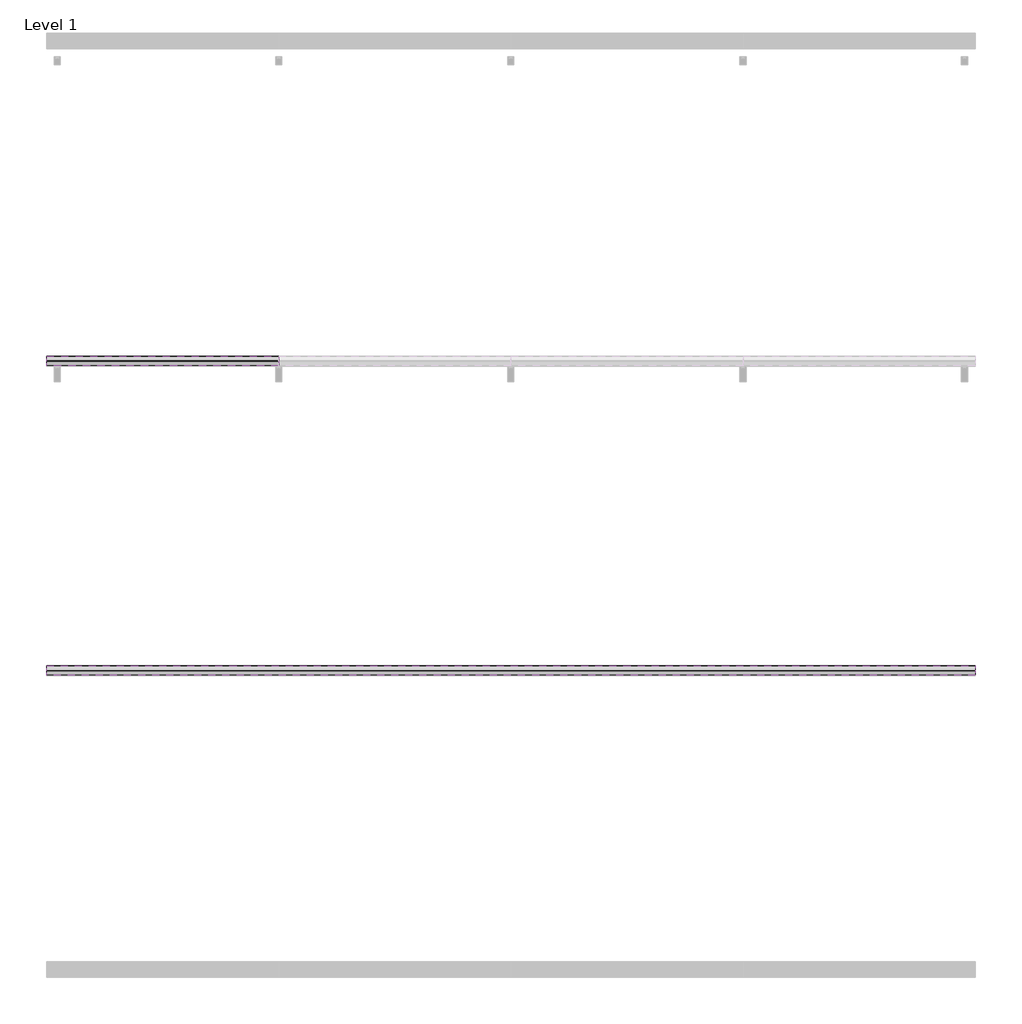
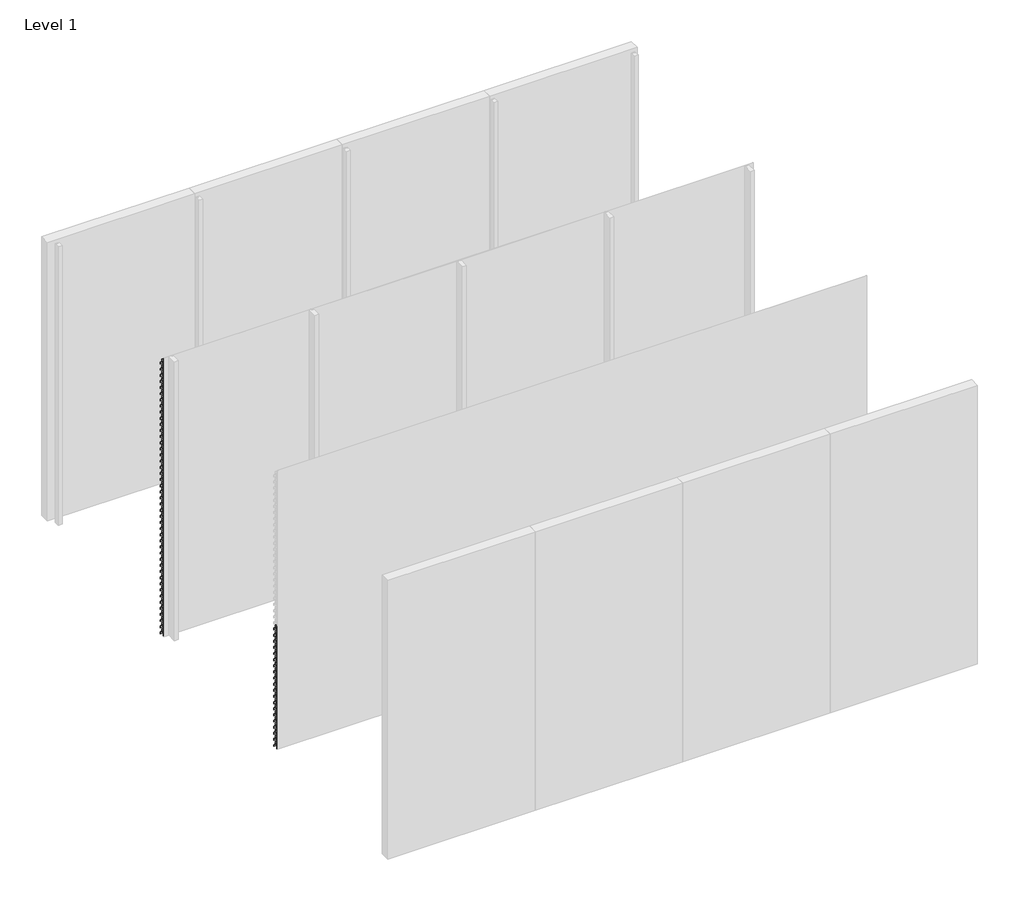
# One storey, part 13 of 35: 70 proxies.
"""IFC4 building model written with IfcOpenShell, lengths in millimetres."""

from ifc_helpers import new_model, si_unit, frame, origin, place, context, project, spatial, polyline, outline, extrude, element, save

model = new_model("IFC4")

# Units and contexts
model_context = context("Model", 3, world=origin())
ifc_project = project(units=[si_unit("LENGTHUNIT", "METRE", prefix="MILLI")], contexts=[model_context])

# Site, building, storey
site = spatial("IfcSite", under=ifc_project)
building = spatial("IfcBuilding", under=site)
storey = spatial("IfcBuildingStorey", under=building, Name="Level 1", Elevation=0.0)

# Proxies
placement = place(None, origin())
element("IfcBuildingElementProxy", 1, Name="Wall Sweeps", at=placement, inside=storey, context=model_context, shape_type="SweptSolid", body=[
    extrude(outline(polyline([(-35936.0, 2916.0), (-35936.0, 2896.0), (-35937.25, 2896.0), (-35937.25, 2915.4342979), (-35968.1138939, 2948.531772), (-35996.7, 2928.4392868), (-35996.7, 2909.6629874), (-35998.0, 2908.8506572), (-35998.0, 2929.1145472), (-35968.537525, 2949.823011), (-35968.537525, 2970.0), (-35967.1772624, 2970.0), (-35967.1772624, 2949.4335207), (-35936.0, 2916.0)])), frame((0.0, 0.0, 0.0), z_axis=(1.0, 0.0, 0.0), x_axis=(0.0, 1.0, 0.0)), (0.0, 0.0, 1.0), 1500.0),
])
element("IfcBuildingElementProxy", 2, Name="Wall Sweeps", at=placement, inside=storey, context=model_context, shape_type="SweptSolid", body=[
    extrude(outline(polyline([(-35936.0, 2850.0), (-35936.0, 2830.0), (-35937.25, 2830.0), (-35937.25, 2849.4342979), (-35968.1138939, 2882.531772), (-35996.7, 2862.4392868), (-35996.7, 2843.6629874), (-35998.0, 2842.8506572), (-35998.0, 2863.1145472), (-35968.537525, 2883.823011), (-35968.537525, 2904.0), (-35967.1772624, 2904.0), (-35967.1772624, 2883.4335207), (-35936.0, 2850.0)])), frame((0.0, 0.0, 0.0), z_axis=(1.0, 0.0, 0.0), x_axis=(0.0, 1.0, 0.0)), (0.0, 0.0, 1.0), 1500.0),
])
element("IfcBuildingElementProxy", 3, Name="Wall Sweeps", at=placement, inside=storey, context=model_context, shape_type="SweptSolid", body=[
    extrude(outline(polyline([(-35936.0, 2784.0), (-35936.0, 2764.0), (-35937.25, 2764.0), (-35937.25, 2783.4342979), (-35968.1138939, 2816.531772), (-35996.7, 2796.4392868), (-35996.7, 2777.6629874), (-35998.0, 2776.8506572), (-35998.0, 2797.1145472), (-35968.537525, 2817.823011), (-35968.537525, 2838.0), (-35967.1772624, 2838.0), (-35967.1772624, 2817.4335207), (-35936.0, 2784.0)])), frame((0.0, 0.0, 0.0), z_axis=(1.0, 0.0, 0.0), x_axis=(0.0, 1.0, 0.0)), (0.0, 0.0, 1.0), 1500.0),
])
element("IfcBuildingElementProxy", 4, Name="Wall Sweeps", at=placement, inside=storey, context=model_context, shape_type="SweptSolid", body=[
    extrude(outline(polyline([(-35936.0, 2718.0), (-35936.0, 2698.0), (-35937.25, 2698.0), (-35937.25, 2717.4342979), (-35968.1138939, 2750.531772), (-35996.7, 2730.4392868), (-35996.7, 2711.6629874), (-35998.0, 2710.8506572), (-35998.0, 2731.1145472), (-35968.537525, 2751.823011), (-35968.537525, 2772.0), (-35967.1772624, 2772.0), (-35967.1772624, 2751.4335207), (-35936.0, 2718.0)])), frame((0.0, 0.0, 0.0), z_axis=(1.0, 0.0, 0.0), x_axis=(0.0, 1.0, 0.0)), (0.0, 0.0, 1.0), 1500.0),
])
element("IfcBuildingElementProxy", 5, Name="Wall Sweeps", at=placement, inside=storey, context=model_context, shape_type="SweptSolid", body=[
    extrude(outline(polyline([(-35936.0, 2652.0), (-35936.0, 2632.0), (-35937.25, 2632.0), (-35937.25, 2651.4342979), (-35968.1138939, 2684.531772), (-35996.7, 2664.4392868), (-35996.7, 2645.6629874), (-35998.0, 2644.8506572), (-35998.0, 2665.1145472), (-35968.537525, 2685.823011), (-35968.537525, 2706.0), (-35967.1772624, 2706.0), (-35967.1772624, 2685.4335207), (-35936.0, 2652.0)])), frame((0.0, 0.0, 0.0), z_axis=(1.0, 0.0, 0.0), x_axis=(0.0, 1.0, 0.0)), (0.0, 0.0, 1.0), 1500.0),
])
element("IfcBuildingElementProxy", 6, Name="Wall Sweeps", at=placement, inside=storey, context=model_context, shape_type="SweptSolid", body=[
    extrude(outline(polyline([(-35936.0, 2586.0), (-35936.0, 2566.0), (-35937.25, 2566.0), (-35937.25, 2585.4342979), (-35968.1138939, 2618.531772), (-35996.7, 2598.4392868), (-35996.7, 2579.6629874), (-35998.0, 2578.8506572), (-35998.0, 2599.1145472), (-35968.537525, 2619.823011), (-35968.537525, 2640.0), (-35967.1772624, 2640.0), (-35967.1772624, 2619.4335207), (-35936.0, 2586.0)])), frame((0.0, 0.0, 0.0), z_axis=(1.0, 0.0, 0.0), x_axis=(0.0, 1.0, 0.0)), (0.0, 0.0, 1.0), 1500.0),
])
element("IfcBuildingElementProxy", 7, Name="Wall Sweeps", at=placement, inside=storey, context=model_context, shape_type="SweptSolid", body=[
    extrude(outline(polyline([(-35936.0, 2520.0), (-35936.0, 2500.0), (-35937.25, 2500.0), (-35937.25, 2519.4342979), (-35968.1138939, 2552.531772), (-35996.7, 2532.4392868), (-35996.7, 2513.6629874), (-35998.0, 2512.8506572), (-35998.0, 2533.1145472), (-35968.537525, 2553.823011), (-35968.537525, 2574.0), (-35967.1772624, 2574.0), (-35967.1772624, 2553.4335207), (-35936.0, 2520.0)])), frame((0.0, 0.0, 0.0), z_axis=(1.0, 0.0, 0.0), x_axis=(0.0, 1.0, 0.0)), (0.0, 0.0, 1.0), 1500.0),
])
element("IfcBuildingElementProxy", 8, Name="Wall Sweeps", at=placement, inside=storey, context=model_context, shape_type="SweptSolid", body=[
    extrude(outline(polyline([(-35936.0, 2454.0), (-35936.0, 2434.0), (-35937.25, 2434.0), (-35937.25, 2453.4342979), (-35968.1138939, 2486.531772), (-35996.7, 2466.4392868), (-35996.7, 2447.6629874), (-35998.0, 2446.8506572), (-35998.0, 2467.1145472), (-35968.537525, 2487.823011), (-35968.537525, 2508.0), (-35967.1772624, 2508.0), (-35967.1772624, 2487.4335207), (-35936.0, 2454.0)])), frame((0.0, 0.0, 0.0), z_axis=(1.0, 0.0, 0.0), x_axis=(0.0, 1.0, 0.0)), (0.0, 0.0, 1.0), 1500.0),
])
element("IfcBuildingElementProxy", 9, Name="Wall Sweeps", at=placement, inside=storey, context=model_context, shape_type="SweptSolid", body=[
    extrude(outline(polyline([(-35936.0, 2388.0), (-35936.0, 2368.0), (-35937.25, 2368.0), (-35937.25, 2387.4342979), (-35968.1138939, 2420.531772), (-35996.7, 2400.4392868), (-35996.7, 2381.6629874), (-35998.0, 2380.8506572), (-35998.0, 2401.1145472), (-35968.537525, 2421.823011), (-35968.537525, 2442.0), (-35967.1772624, 2442.0), (-35967.1772624, 2421.4335207), (-35936.0, 2388.0)])), frame((0.0, 0.0, 0.0), z_axis=(1.0, 0.0, 0.0), x_axis=(0.0, 1.0, 0.0)), (0.0, 0.0, 1.0), 1500.0),
])
element("IfcBuildingElementProxy", 10, Name="Wall Sweeps", at=placement, inside=storey, context=model_context, shape_type="SweptSolid", body=[
    extrude(outline(polyline([(-35936.0, 2322.0), (-35936.0, 2302.0), (-35937.25, 2302.0), (-35937.25, 2321.4342979), (-35968.1138939, 2354.531772), (-35996.7, 2334.4392868), (-35996.7, 2315.6629874), (-35998.0, 2314.8506572), (-35998.0, 2335.1145472), (-35968.537525, 2355.823011), (-35968.537525, 2376.0), (-35967.1772624, 2376.0), (-35967.1772624, 2355.4335207), (-35936.0, 2322.0)])), frame((0.0, 0.0, 0.0), z_axis=(1.0, 0.0, 0.0), x_axis=(0.0, 1.0, 0.0)), (0.0, 0.0, 1.0), 1500.0),
])
element("IfcBuildingElementProxy", 11, Name="Wall Sweeps", at=placement, inside=storey, context=model_context, shape_type="SweptSolid", body=[
    extrude(outline(polyline([(-35936.0, 2256.0), (-35936.0, 2236.0), (-35937.25, 2236.0), (-35937.25, 2255.4342979), (-35968.1138939, 2288.531772), (-35996.7, 2268.4392868), (-35996.7, 2249.6629874), (-35998.0, 2248.8506572), (-35998.0, 2269.1145472), (-35968.537525, 2289.823011), (-35968.537525, 2310.0), (-35967.1772624, 2310.0), (-35967.1772624, 2289.4335207), (-35936.0, 2256.0)])), frame((0.0, 0.0, 0.0), z_axis=(1.0, 0.0, 0.0), x_axis=(0.0, 1.0, 0.0)), (0.0, 0.0, 1.0), 1500.0),
])
element("IfcBuildingElementProxy", 12, Name="Wall Sweeps", at=placement, inside=storey, context=model_context, shape_type="SweptSolid", body=[
    extrude(outline(polyline([(-35936.0, 2190.0), (-35936.0, 2170.0), (-35937.25, 2170.0), (-35937.25, 2189.4342979), (-35968.1138939, 2222.531772), (-35996.7, 2202.4392868), (-35996.7, 2183.6629874), (-35998.0, 2182.8506572), (-35998.0, 2203.1145472), (-35968.537525, 2223.823011), (-35968.537525, 2244.0), (-35967.1772624, 2244.0), (-35967.1772624, 2223.4335207), (-35936.0, 2190.0)])), frame((0.0, 0.0, 0.0), z_axis=(1.0, 0.0, 0.0), x_axis=(0.0, 1.0, 0.0)), (0.0, 0.0, 1.0), 1500.0),
])
element("IfcBuildingElementProxy", 13, Name="Wall Sweeps", at=placement, inside=storey, context=model_context, shape_type="SweptSolid", body=[
    extrude(outline(polyline([(-35936.0, 2124.0), (-35936.0, 2104.0), (-35937.25, 2104.0), (-35937.25, 2123.4342979), (-35968.1138939, 2156.531772), (-35996.7, 2136.4392868), (-35996.7, 2117.6629874), (-35998.0, 2116.8506572), (-35998.0, 2137.1145472), (-35968.537525, 2157.823011), (-35968.537525, 2178.0), (-35967.1772624, 2178.0), (-35967.1772624, 2157.4335207), (-35936.0, 2124.0)])), frame((0.0, 0.0, 0.0), z_axis=(1.0, 0.0, 0.0), x_axis=(0.0, 1.0, 0.0)), (0.0, 0.0, 1.0), 1500.0),
])
element("IfcBuildingElementProxy", 14, Name="Wall Sweeps", at=placement, inside=storey, context=model_context, shape_type="SweptSolid", body=[
    extrude(outline(polyline([(-35936.0, 2058.0), (-35936.0, 2038.0), (-35937.25, 2038.0), (-35937.25, 2057.4342979), (-35968.1138939, 2090.531772), (-35996.7, 2070.4392868), (-35996.7, 2051.6629874), (-35998.0, 2050.8506572), (-35998.0, 2071.1145472), (-35968.537525, 2091.823011), (-35968.537525, 2112.0), (-35967.1772624, 2112.0), (-35967.1772624, 2091.4335207), (-35936.0, 2058.0)])), frame((0.0, 0.0, 0.0), z_axis=(1.0, 0.0, 0.0), x_axis=(0.0, 1.0, 0.0)), (0.0, 0.0, 1.0), 1500.0),
])
element("IfcBuildingElementProxy", 15, Name="Wall Sweeps", at=placement, inside=storey, context=model_context, shape_type="SweptSolid", body=[
    extrude(outline(polyline([(-35936.0, 1992.0), (-35936.0, 1972.0), (-35937.25, 1972.0), (-35937.25, 1991.4342979), (-35968.1138939, 2024.531772), (-35996.7, 2004.4392868), (-35996.7, 1985.6629874), (-35998.0, 1984.8506572), (-35998.0, 2005.1145472), (-35968.537525, 2025.823011), (-35968.537525, 2046.0), (-35967.1772624, 2046.0), (-35967.1772624, 2025.4335207), (-35936.0, 1992.0)])), frame((0.0, 0.0, 0.0), z_axis=(1.0, 0.0, 0.0), x_axis=(0.0, 1.0, 0.0)), (0.0, 0.0, 1.0), 1500.0),
])
element("IfcBuildingElementProxy", 16, Name="Wall Sweeps", at=placement, inside=storey, context=model_context, shape_type="SweptSolid", body=[
    extrude(outline(polyline([(-35936.0, 1926.0), (-35936.0, 1906.0), (-35937.25, 1906.0), (-35937.25, 1925.4342979), (-35968.1138939, 1958.531772), (-35996.7, 1938.4392868), (-35996.7, 1919.6629874), (-35998.0, 1918.8506572), (-35998.0, 1939.1145472), (-35968.537525, 1959.823011), (-35968.537525, 1980.0), (-35967.1772624, 1980.0), (-35967.1772624, 1959.4335207), (-35936.0, 1926.0)])), frame((0.0, 0.0, 0.0), z_axis=(1.0, 0.0, 0.0), x_axis=(0.0, 1.0, 0.0)), (0.0, 0.0, 1.0), 1500.0),
])
element("IfcBuildingElementProxy", 17, Name="Wall Sweeps", at=placement, inside=storey, context=model_context, shape_type="SweptSolid", body=[
    extrude(outline(polyline([(-35936.0, 1860.0), (-35936.0, 1840.0), (-35937.25, 1840.0), (-35937.25, 1859.4342979), (-35968.1138939, 1892.531772), (-35996.7, 1872.4392868), (-35996.7, 1853.6629874), (-35998.0, 1852.8506572), (-35998.0, 1873.1145472), (-35968.537525, 1893.823011), (-35968.537525, 1914.0), (-35967.1772624, 1914.0), (-35967.1772624, 1893.4335207), (-35936.0, 1860.0)])), frame((0.0, 0.0, 0.0), z_axis=(1.0, 0.0, 0.0), x_axis=(0.0, 1.0, 0.0)), (0.0, 0.0, 1.0), 1500.0),
])
element("IfcBuildingElementProxy", 18, Name="Wall Sweeps", at=placement, inside=storey, context=model_context, shape_type="SweptSolid", body=[
    extrude(outline(polyline([(-35936.0, 1794.0), (-35936.0, 1774.0), (-35937.25, 1774.0), (-35937.25, 1793.4342979), (-35968.1138939, 1826.531772), (-35996.7, 1806.4392868), (-35996.7, 1787.6629874), (-35998.0, 1786.8506572), (-35998.0, 1807.1145472), (-35968.537525, 1827.823011), (-35968.537525, 1848.0), (-35967.1772624, 1848.0), (-35967.1772624, 1827.4335207), (-35936.0, 1794.0)])), frame((0.0, 0.0, 0.0), z_axis=(1.0, 0.0, 0.0), x_axis=(0.0, 1.0, 0.0)), (0.0, 0.0, 1.0), 1500.0),
])
element("IfcBuildingElementProxy", 19, Name="Wall Sweeps", at=placement, inside=storey, context=model_context, shape_type="SweptSolid", body=[
    extrude(outline(polyline([(-35936.0, 1728.0), (-35936.0, 1708.0), (-35937.25, 1708.0), (-35937.25, 1727.4342979), (-35968.1138939, 1760.531772), (-35996.7, 1740.4392868), (-35996.7, 1721.6629874), (-35998.0, 1720.8506572), (-35998.0, 1741.1145472), (-35968.537525, 1761.823011), (-35968.537525, 1782.0), (-35967.1772624, 1782.0), (-35967.1772624, 1761.4335207), (-35936.0, 1728.0)])), frame((0.0, 0.0, 0.0), z_axis=(1.0, 0.0, 0.0), x_axis=(0.0, 1.0, 0.0)), (0.0, 0.0, 1.0), 1500.0),
])
element("IfcBuildingElementProxy", 20, Name="Wall Sweeps", at=placement, inside=storey, context=model_context, shape_type="SweptSolid", body=[
    extrude(outline(polyline([(-35936.0, 1662.0), (-35936.0, 1642.0), (-35937.25, 1642.0), (-35937.25, 1661.4342979), (-35968.1138939, 1694.531772), (-35996.7, 1674.4392868), (-35996.7, 1655.6629874), (-35998.0, 1654.8506572), (-35998.0, 1675.1145472), (-35968.537525, 1695.823011), (-35968.537525, 1716.0), (-35967.1772624, 1716.0), (-35967.1772624, 1695.4335207), (-35936.0, 1662.0)])), frame((0.0, 0.0, 0.0), z_axis=(1.0, 0.0, 0.0), x_axis=(0.0, 1.0, 0.0)), (0.0, 0.0, 1.0), 1500.0),
])
element("IfcBuildingElementProxy", 21, Name="Wall Sweeps", at=placement, inside=storey, context=model_context, shape_type="SweptSolid", body=[
    extrude(outline(polyline([(-35936.0, 1596.0), (-35936.0, 1576.0), (-35937.25, 1576.0), (-35937.25, 1595.4342979), (-35968.1138939, 1628.531772), (-35996.7, 1608.4392868), (-35996.7, 1589.6629874), (-35998.0, 1588.8506572), (-35998.0, 1609.1145472), (-35968.537525, 1629.823011), (-35968.537525, 1650.0), (-35967.1772624, 1650.0), (-35967.1772624, 1629.4335207), (-35936.0, 1596.0)])), frame((0.0, 0.0, 0.0), z_axis=(1.0, 0.0, 0.0), x_axis=(0.0, 1.0, 0.0)), (0.0, 0.0, 1.0), 1500.0),
])
element("IfcBuildingElementProxy", 22, Name="Wall Sweeps", at=placement, inside=storey, context=model_context, shape_type="SweptSolid", body=[
    extrude(outline(polyline([(-35936.0, 1530.0), (-35936.0, 1510.0), (-35937.25, 1510.0), (-35937.25, 1529.4342979), (-35968.1138939, 1562.531772), (-35996.7, 1542.4392868), (-35996.7, 1523.6629874), (-35998.0, 1522.8506572), (-35998.0, 1543.1145472), (-35968.537525, 1563.823011), (-35968.537525, 1584.0), (-35967.1772624, 1584.0), (-35967.1772624, 1563.4335207), (-35936.0, 1530.0)])), frame((0.0, 0.0, 0.0), z_axis=(1.0, 0.0, 0.0), x_axis=(0.0, 1.0, 0.0)), (0.0, 0.0, 1.0), 1500.0),
])
element("IfcBuildingElementProxy", 23, Name="Wall Sweeps", at=placement, inside=storey, context=model_context, shape_type="SweptSolid", body=[
    extrude(outline(polyline([(-35936.0, 1464.0), (-35936.0, 1444.0), (-35937.25, 1444.0), (-35937.25, 1463.4342979), (-35968.1138939, 1496.531772), (-35996.7, 1476.4392868), (-35996.7, 1457.6629874), (-35998.0, 1456.8506572), (-35998.0, 1477.1145472), (-35968.537525, 1497.823011), (-35968.537525, 1518.0), (-35967.1772624, 1518.0), (-35967.1772624, 1497.4335207), (-35936.0, 1464.0)])), frame((0.0, 0.0, 0.0), z_axis=(1.0, 0.0, 0.0), x_axis=(0.0, 1.0, 0.0)), (0.0, 0.0, 1.0), 1500.0),
])
element("IfcBuildingElementProxy", 24, Name="Wall Sweeps", at=placement, inside=storey, context=model_context, shape_type="SweptSolid", body=[
    extrude(outline(polyline([(-35936.0, 1398.0), (-35936.0, 1378.0), (-35937.25, 1378.0), (-35937.25, 1397.4342979), (-35968.1138939, 1430.531772), (-35996.7, 1410.4392868), (-35996.7, 1391.6629874), (-35998.0, 1390.8506572), (-35998.0, 1411.1145472), (-35968.537525, 1431.823011), (-35968.537525, 1452.0), (-35967.1772624, 1452.0), (-35967.1772624, 1431.4335207), (-35936.0, 1398.0)])), frame((0.0, 0.0, 0.0), z_axis=(1.0, 0.0, 0.0), x_axis=(0.0, 1.0, 0.0)), (0.0, 0.0, 1.0), 1500.0),
])
element("IfcBuildingElementProxy", 25, Name="Wall Sweeps", at=placement, inside=storey, context=model_context, shape_type="SweptSolid", body=[
    extrude(outline(polyline([(-35936.0, 1332.0), (-35936.0, 1312.0), (-35937.25, 1312.0), (-35937.25, 1331.4342979), (-35968.1138939, 1364.531772), (-35996.7, 1344.4392868), (-35996.7, 1325.6629874), (-35998.0, 1324.8506572), (-35998.0, 1345.1145472), (-35968.537525, 1365.823011), (-35968.537525, 1386.0), (-35967.1772624, 1386.0), (-35967.1772624, 1365.4335207), (-35936.0, 1332.0)])), frame((0.0, 0.0, 0.0), z_axis=(1.0, 0.0, 0.0), x_axis=(0.0, 1.0, 0.0)), (0.0, 0.0, 1.0), 1500.0),
])
element("IfcBuildingElementProxy", 26, Name="Wall Sweeps", at=placement, inside=storey, context=model_context, shape_type="SweptSolid", body=[
    extrude(outline(polyline([(-35936.0, 1266.0), (-35936.0, 1246.0), (-35937.25, 1246.0), (-35937.25, 1265.4342979), (-35968.1138939, 1298.531772), (-35996.7, 1278.4392868), (-35996.7, 1259.6629874), (-35998.0, 1258.8506572), (-35998.0, 1279.1145472), (-35968.537525, 1299.823011), (-35968.537525, 1320.0), (-35967.1772624, 1320.0), (-35967.1772624, 1299.4335207), (-35936.0, 1266.0)])), frame((0.0, 0.0, 0.0), z_axis=(1.0, 0.0, 0.0), x_axis=(0.0, 1.0, 0.0)), (0.0, 0.0, 1.0), 1500.0),
])
element("IfcBuildingElementProxy", 27, Name="Wall Sweeps", at=placement, inside=storey, context=model_context, shape_type="SweptSolid", body=[
    extrude(outline(polyline([(-35936.0, 1200.0), (-35936.0, 1180.0), (-35937.25, 1180.0), (-35937.25, 1199.4342979), (-35968.1138939, 1232.531772), (-35996.7, 1212.4392868), (-35996.7, 1193.6629874), (-35998.0, 1192.8506572), (-35998.0, 1213.1145472), (-35968.537525, 1233.823011), (-35968.537525, 1254.0), (-35967.1772624, 1254.0), (-35967.1772624, 1233.4335207), (-35936.0, 1200.0)])), frame((0.0, 0.0, 0.0), z_axis=(1.0, 0.0, 0.0), x_axis=(0.0, 1.0, 0.0)), (0.0, 0.0, 1.0), 1500.0),
])
element("IfcBuildingElementProxy", 28, Name="Wall Sweeps", at=placement, inside=storey, context=model_context, shape_type="SweptSolid", body=[
    extrude(outline(polyline([(-35936.0, 1134.0), (-35936.0, 1114.0), (-35937.25, 1114.0), (-35937.25, 1133.4342979), (-35968.1138939, 1166.531772), (-35996.7, 1146.4392868), (-35996.7, 1127.6629874), (-35998.0, 1126.8506572), (-35998.0, 1147.1145472), (-35968.537525, 1167.823011), (-35968.537525, 1188.0), (-35967.1772624, 1188.0), (-35967.1772624, 1167.4335207), (-35936.0, 1134.0)])), frame((0.0, 0.0, 0.0), z_axis=(1.0, 0.0, 0.0), x_axis=(0.0, 1.0, 0.0)), (0.0, 0.0, 1.0), 1500.0),
])
element("IfcBuildingElementProxy", 29, Name="Wall Sweeps", at=placement, inside=storey, context=model_context, shape_type="SweptSolid", body=[
    extrude(outline(polyline([(-35936.0, 1068.0), (-35936.0, 1048.0), (-35937.25, 1048.0), (-35937.25, 1067.4342979), (-35968.1138939, 1100.531772), (-35996.7, 1080.4392868), (-35996.7, 1061.6629874), (-35998.0, 1060.8506572), (-35998.0, 1081.1145472), (-35968.537525, 1101.823011), (-35968.537525, 1122.0), (-35967.1772624, 1122.0), (-35967.1772624, 1101.4335207), (-35936.0, 1068.0)])), frame((0.0, 0.0, 0.0), z_axis=(1.0, 0.0, 0.0), x_axis=(0.0, 1.0, 0.0)), (0.0, 0.0, 1.0), 1500.0),
])
element("IfcBuildingElementProxy", 30, Name="Wall Sweeps", at=placement, inside=storey, context=model_context, shape_type="SweptSolid", body=[
    extrude(outline(polyline([(-35936.0, 1002.0), (-35936.0, 982.0), (-35937.25, 982.0), (-35937.25, 1001.4342979), (-35968.1138939, 1034.531772), (-35996.7, 1014.4392868), (-35996.7, 995.6629874), (-35998.0, 994.8506572), (-35998.0, 1015.1145472), (-35968.537525, 1035.823011), (-35968.537525, 1056.0), (-35967.1772624, 1056.0), (-35967.1772624, 1035.4335207), (-35936.0, 1002.0)])), frame((0.0, 0.0, 0.0), z_axis=(1.0, 0.0, 0.0), x_axis=(0.0, 1.0, 0.0)), (0.0, 0.0, 1.0), 1500.0),
])
element("IfcBuildingElementProxy", 31, Name="Wall Sweeps", at=placement, inside=storey, context=model_context, shape_type="SweptSolid", body=[
    extrude(outline(polyline([(-35936.0, 936.0), (-35936.0, 916.0), (-35937.25, 916.0), (-35937.25, 935.4342979), (-35968.1138939, 968.531772), (-35996.7, 948.4392868), (-35996.7, 929.6629874), (-35998.0, 928.8506572), (-35998.0, 949.1145472), (-35968.537525, 969.823011), (-35968.537525, 990.0), (-35967.1772624, 990.0), (-35967.1772624, 969.4335207), (-35936.0, 936.0)])), frame((0.0, 0.0, 0.0), z_axis=(1.0, 0.0, 0.0), x_axis=(0.0, 1.0, 0.0)), (0.0, 0.0, 1.0), 1500.0),
])
element("IfcBuildingElementProxy", 32, Name="Wall Sweeps", at=placement, inside=storey, context=model_context, shape_type="SweptSolid", body=[
    extrude(outline(polyline([(-35936.0, 870.0), (-35936.0, 850.0), (-35937.25, 850.0), (-35937.25, 869.4342979), (-35968.1138939, 902.531772), (-35996.7, 882.4392868), (-35996.7, 863.6629874), (-35998.0, 862.8506572), (-35998.0, 883.1145472), (-35968.537525, 903.823011), (-35968.537525, 924.0), (-35967.1772624, 924.0), (-35967.1772624, 903.4335207), (-35936.0, 870.0)])), frame((0.0, 0.0, 0.0), z_axis=(1.0, 0.0, 0.0), x_axis=(0.0, 1.0, 0.0)), (0.0, 0.0, 1.0), 1500.0),
])
element("IfcBuildingElementProxy", 33, Name="Wall Sweeps", at=placement, inside=storey, context=model_context, shape_type="SweptSolid", body=[
    extrude(outline(polyline([(-35936.0, 804.0), (-35936.0, 784.0), (-35937.25, 784.0), (-35937.25, 803.4342979), (-35968.1138939, 836.531772), (-35996.7, 816.4392868), (-35996.7, 797.6629874), (-35998.0, 796.8506572), (-35998.0, 817.1145472), (-35968.537525, 837.823011), (-35968.537525, 858.0), (-35967.1772624, 858.0), (-35967.1772624, 837.4335207), (-35936.0, 804.0)])), frame((0.0, 0.0, 0.0), z_axis=(1.0, 0.0, 0.0), x_axis=(0.0, 1.0, 0.0)), (0.0, 0.0, 1.0), 1500.0),
])
element("IfcBuildingElementProxy", 34, Name="Wall Sweeps", at=placement, inside=storey, context=model_context, shape_type="SweptSolid", body=[
    extrude(outline(polyline([(-35936.0, 738.0), (-35936.0, 718.0), (-35937.25, 718.0), (-35937.25, 737.4342979), (-35968.1138939, 770.531772), (-35996.7, 750.4392868), (-35996.7, 731.6629874), (-35998.0, 730.8506572), (-35998.0, 751.1145472), (-35968.537525, 771.823011), (-35968.537525, 792.0), (-35967.1772624, 792.0), (-35967.1772624, 771.4335207), (-35936.0, 738.0)])), frame((0.0, 0.0, 0.0), z_axis=(1.0, 0.0, 0.0), x_axis=(0.0, 1.0, 0.0)), (0.0, 0.0, 1.0), 1500.0),
])
element("IfcBuildingElementProxy", 35, Name="Wall Sweeps", at=placement, inside=storey, context=model_context, shape_type="SweptSolid", body=[
    extrude(outline(polyline([(-35936.0, 672.0), (-35936.0, 652.0), (-35937.25, 652.0), (-35937.25, 671.4342979), (-35968.1138939, 704.531772), (-35996.7, 684.4392868), (-35996.7, 665.6629874), (-35998.0, 664.8506572), (-35998.0, 685.1145472), (-35968.537525, 705.823011), (-35968.537525, 726.0), (-35967.1772624, 726.0), (-35967.1772624, 705.4335207), (-35936.0, 672.0)])), frame((0.0, 0.0, 0.0), z_axis=(1.0, 0.0, 0.0), x_axis=(0.0, 1.0, 0.0)), (0.0, 0.0, 1.0), 1500.0),
])
element("IfcBuildingElementProxy", 36, Name="Wall Sweeps", at=placement, inside=storey, context=model_context, shape_type="SweptSolid", body=[
    extrude(outline(polyline([(-35936.0, 606.0), (-35936.0, 586.0), (-35937.25, 586.0), (-35937.25, 605.4342979), (-35968.1138939, 638.531772), (-35996.7, 618.4392868), (-35996.7, 599.6629874), (-35998.0, 598.8506572), (-35998.0, 619.1145472), (-35968.537525, 639.823011), (-35968.537525, 660.0), (-35967.1772624, 660.0), (-35967.1772624, 639.4335207), (-35936.0, 606.0)])), frame((0.0, 0.0, 0.0), z_axis=(1.0, 0.0, 0.0), x_axis=(0.0, 1.0, 0.0)), (0.0, 0.0, 1.0), 1500.0),
])
element("IfcBuildingElementProxy", 37, Name="Wall Sweeps", at=placement, inside=storey, context=model_context, shape_type="SweptSolid", body=[
    extrude(outline(polyline([(-35936.0, 540.0), (-35936.0, 520.0), (-35937.25, 520.0), (-35937.25, 539.4342979), (-35968.1138939, 572.531772), (-35996.7, 552.4392868), (-35996.7, 533.6629874), (-35998.0, 532.8506572), (-35998.0, 553.1145472), (-35968.537525, 573.823011), (-35968.537525, 594.0), (-35967.1772624, 594.0), (-35967.1772624, 573.4335207), (-35936.0, 540.0)])), frame((0.0, 0.0, 0.0), z_axis=(1.0, 0.0, 0.0), x_axis=(0.0, 1.0, 0.0)), (0.0, 0.0, 1.0), 1500.0),
])
element("IfcBuildingElementProxy", 38, Name="Wall Sweeps", at=placement, inside=storey, context=model_context, shape_type="SweptSolid", body=[
    extrude(outline(polyline([(-35936.0, 474.0), (-35936.0, 454.0), (-35937.25, 454.0), (-35937.25, 473.4342979), (-35968.1138939, 506.531772), (-35996.7, 486.4392868), (-35996.7, 467.6629874), (-35998.0, 466.8506572), (-35998.0, 487.1145472), (-35968.537525, 507.823011), (-35968.537525, 528.0), (-35967.1772624, 528.0), (-35967.1772624, 507.4335207), (-35936.0, 474.0)])), frame((0.0, 0.0, 0.0), z_axis=(1.0, 0.0, 0.0), x_axis=(0.0, 1.0, 0.0)), (0.0, 0.0, 1.0), 1500.0),
])
element("IfcBuildingElementProxy", 39, Name="Wall Sweeps", at=placement, inside=storey, context=model_context, shape_type="SweptSolid", body=[
    extrude(outline(polyline([(-35936.0, 408.0), (-35936.0, 388.0), (-35937.25, 388.0), (-35937.25, 407.4342979), (-35968.1138939, 440.531772), (-35996.7, 420.4392868), (-35996.7, 401.6629874), (-35998.0, 400.8506572), (-35998.0, 421.1145472), (-35968.537525, 441.823011), (-35968.537525, 462.0), (-35967.1772624, 462.0), (-35967.1772624, 441.4335207), (-35936.0, 408.0)])), frame((0.0, 0.0, 0.0), z_axis=(1.0, 0.0, 0.0), x_axis=(0.0, 1.0, 0.0)), (0.0, 0.0, 1.0), 1500.0),
])
element("IfcBuildingElementProxy", 40, Name="Wall Sweeps", at=placement, inside=storey, context=model_context, shape_type="SweptSolid", body=[
    extrude(outline(polyline([(-35936.0, 342.0), (-35936.0, 322.0), (-35937.25, 322.0), (-35937.25, 341.4342979), (-35968.1138939, 374.531772), (-35996.7, 354.4392868), (-35996.7, 335.6629874), (-35998.0, 334.8506572), (-35998.0, 355.1145472), (-35968.537525, 375.823011), (-35968.537525, 396.0), (-35967.1772624, 396.0), (-35967.1772624, 375.4335207), (-35936.0, 342.0)])), frame((0.0, 0.0, 0.0), z_axis=(1.0, 0.0, 0.0), x_axis=(0.0, 1.0, 0.0)), (0.0, 0.0, 1.0), 1500.0),
])
element("IfcBuildingElementProxy", 41, Name="Wall Sweeps", at=placement, inside=storey, context=model_context, shape_type="SweptSolid", body=[
    extrude(outline(polyline([(-35936.0, 276.0), (-35936.0, 256.0), (-35937.25, 256.0), (-35937.25, 275.4342979), (-35968.1138939, 308.531772), (-35996.7, 288.4392868), (-35996.7, 269.6629874), (-35998.0, 268.8506572), (-35998.0, 289.1145472), (-35968.537525, 309.823011), (-35968.537525, 330.0), (-35967.1772624, 330.0), (-35967.1772624, 309.4335207), (-35936.0, 276.0)])), frame((0.0, 0.0, 0.0), z_axis=(1.0, 0.0, 0.0), x_axis=(0.0, 1.0, 0.0)), (0.0, 0.0, 1.0), 1500.0),
])
element("IfcBuildingElementProxy", 42, Name="Wall Sweeps", at=placement, inside=storey, context=model_context, shape_type="SweptSolid", body=[
    extrude(outline(polyline([(-35936.0, 210.0), (-35936.0, 190.0), (-35937.25, 190.0), (-35937.25, 209.4342979), (-35968.1138939, 242.531772), (-35996.7, 222.4392868), (-35996.7, 203.6629874), (-35998.0, 202.8506572), (-35998.0, 223.1145472), (-35968.537525, 243.823011), (-35968.537525, 264.0), (-35967.1772624, 264.0), (-35967.1772624, 243.4335207), (-35936.0, 210.0)])), frame((0.0, 0.0, 0.0), z_axis=(1.0, 0.0, 0.0), x_axis=(0.0, 1.0, 0.0)), (0.0, 0.0, 1.0), 1500.0),
])
element("IfcBuildingElementProxy", 43, Name="Wall Sweeps", at=placement, inside=storey, context=model_context, shape_type="SweptSolid", body=[
    extrude(outline(polyline([(-35936.0, 144.0), (-35936.0, 124.0), (-35937.25, 124.0), (-35937.25, 143.4342979), (-35968.1138939, 176.531772), (-35996.7, 156.4392868), (-35996.7, 137.6629874), (-35998.0, 136.8506572), (-35998.0, 157.1145472), (-35968.537525, 177.823011), (-35968.537525, 198.0), (-35967.1772624, 198.0), (-35967.1772624, 177.4335207), (-35936.0, 144.0)])), frame((0.0, 0.0, 0.0), z_axis=(1.0, 0.0, 0.0), x_axis=(0.0, 1.0, 0.0)), (0.0, 0.0, 1.0), 1500.0),
])
element("IfcBuildingElementProxy", 44, Name="Wall Sweeps", at=placement, inside=storey, context=model_context, shape_type="SweptSolid", body=[
    extrude(outline(polyline([(-35936.0, 78.0), (-35936.0, 58.0), (-35937.25, 58.0), (-35937.25, 77.4342979), (-35968.1138939, 110.531772), (-35996.7, 90.4392868), (-35996.7, 71.6629874), (-35998.0, 70.8506572), (-35998.0, 91.1145472), (-35968.537525, 111.823011), (-35968.537525, 132.0), (-35967.1772624, 132.0), (-35967.1772624, 111.4335207), (-35936.0, 78.0)])), frame((0.0, 0.0, 0.0), z_axis=(1.0, 0.0, 0.0), x_axis=(0.0, 1.0, 0.0)), (0.0, 0.0, 1.0), 1500.0),
])
element("IfcBuildingElementProxy", 45, Name="Wall Sweeps", at=placement, inside=storey, context=model_context, shape_type="SweptSolid", body=[
    extrude(outline(polyline([(-35936.0, 12.0), (-35936.0, -8.0), (-35937.25, -8.0), (-35937.25, 11.4342979), (-35968.1138939, 44.531772), (-35996.7, 24.4392868), (-35996.7, 5.6629874), (-35998.0, 4.8506572), (-35998.0, 25.1145472), (-35968.537525, 45.823011), (-35968.537525, 66.0), (-35967.1772624, 66.0), (-35967.1772624, 45.4335207), (-35936.0, 12.0)])), frame((0.0, 0.0, 0.0), z_axis=(1.0, 0.0, 0.0), x_axis=(0.0, 1.0, 0.0)), (0.0, 0.0, 1.0), 1500.0),
])
element("IfcBuildingElementProxy", 46, Name="Wall Sweeps", at=placement, inside=storey, context=model_context, shape_type="SweptSolid", body=[
    extrude(outline(polyline([(-35936.0, 2916.0), (-35936.0, 2896.0), (-35937.25, 2896.0), (-35937.25, 2915.4342979), (-35968.1138939, 2948.531772), (-35996.7, 2928.4392868), (-35996.7, 2909.6629874), (-35998.0, 2908.8506572), (-35998.0, 2929.1145472), (-35968.537525, 2949.823011), (-35968.537525, 2970.0), (-35967.1772624, 2970.0), (-35967.1772624, 2949.4335207), (-35936.0, 2916.0)])), frame((1500.0, 0.0, 0.0), z_axis=(1.0, 0.0, 0.0), x_axis=(0.0, 1.0, 0.0)), (0.0, 0.0, 1.0), 1500.0),
])
element("IfcBuildingElementProxy", 47, Name="Wall Sweeps", at=placement, inside=storey, context=model_context, shape_type="SweptSolid", body=[
    extrude(outline(polyline([(-35936.0, 2850.0), (-35936.0, 2830.0), (-35937.25, 2830.0), (-35937.25, 2849.4342979), (-35968.1138939, 2882.531772), (-35996.7, 2862.4392868), (-35996.7, 2843.6629874), (-35998.0, 2842.8506572), (-35998.0, 2863.1145472), (-35968.537525, 2883.823011), (-35968.537525, 2904.0), (-35967.1772624, 2904.0), (-35967.1772624, 2883.4335207), (-35936.0, 2850.0)])), frame((1500.0, 0.0, 0.0), z_axis=(1.0, 0.0, 0.0), x_axis=(0.0, 1.0, 0.0)), (0.0, 0.0, 1.0), 1500.0),
])
element("IfcBuildingElementProxy", 48, Name="Wall Sweeps", at=placement, inside=storey, context=model_context, shape_type="SweptSolid", body=[
    extrude(outline(polyline([(-35936.0, 2784.0), (-35936.0, 2764.0), (-35937.25, 2764.0), (-35937.25, 2783.4342979), (-35968.1138939, 2816.531772), (-35996.7, 2796.4392868), (-35996.7, 2777.6629874), (-35998.0, 2776.8506572), (-35998.0, 2797.1145472), (-35968.537525, 2817.823011), (-35968.537525, 2838.0), (-35967.1772624, 2838.0), (-35967.1772624, 2817.4335207), (-35936.0, 2784.0)])), frame((1500.0, 0.0, 0.0), z_axis=(1.0, 0.0, 0.0), x_axis=(0.0, 1.0, 0.0)), (0.0, 0.0, 1.0), 1500.0),
])
element("IfcBuildingElementProxy", 49, Name="Wall Sweeps", at=placement, inside=storey, context=model_context, shape_type="SweptSolid", body=[
    extrude(outline(polyline([(-35936.0, 2718.0), (-35936.0, 2698.0), (-35937.25, 2698.0), (-35937.25, 2717.4342979), (-35968.1138939, 2750.531772), (-35996.7, 2730.4392868), (-35996.7, 2711.6629874), (-35998.0, 2710.8506572), (-35998.0, 2731.1145472), (-35968.537525, 2751.823011), (-35968.537525, 2772.0), (-35967.1772624, 2772.0), (-35967.1772624, 2751.4335207), (-35936.0, 2718.0)])), frame((1500.0, 0.0, 0.0), z_axis=(1.0, 0.0, 0.0), x_axis=(0.0, 1.0, 0.0)), (0.0, 0.0, 1.0), 1500.0),
])
element("IfcBuildingElementProxy", 50, Name="Wall Sweeps", at=placement, inside=storey, context=model_context, shape_type="SweptSolid", body=[
    extrude(outline(polyline([(-35936.0, 2652.0), (-35936.0, 2632.0), (-35937.25, 2632.0), (-35937.25, 2651.4342979), (-35968.1138939, 2684.531772), (-35996.7, 2664.4392868), (-35996.7, 2645.6629874), (-35998.0, 2644.8506572), (-35998.0, 2665.1145472), (-35968.537525, 2685.823011), (-35968.537525, 2706.0), (-35967.1772624, 2706.0), (-35967.1772624, 2685.4335207), (-35936.0, 2652.0)])), frame((1500.0, 0.0, 0.0), z_axis=(1.0, 0.0, 0.0), x_axis=(0.0, 1.0, 0.0)), (0.0, 0.0, 1.0), 1500.0),
])
element("IfcBuildingElementProxy", 51, Name="Wall Sweeps", at=placement, inside=storey, context=model_context, shape_type="SweptSolid", body=[
    extrude(outline(polyline([(-37936.0, 1266.0), (-37936.0, 1246.0), (-37937.25, 1246.0), (-37937.25, 1265.4342979), (-37968.1138939, 1298.531772), (-37996.7, 1278.4392868), (-37996.7, 1259.6629874), (-37998.0, 1258.8506572), (-37998.0, 1279.1145472), (-37968.537525, 1299.823011), (-37968.537525, 1320.0), (-37967.1772624, 1320.0), (-37967.1772624, 1299.4335207), (-37936.0, 1266.0)])), frame((0.0, 0.0, 0.0), z_axis=(1.0, 0.0, 0.0), x_axis=(0.0, 1.0, 0.0)), (0.0, 0.0, 1.0), 6000.0),
])
element("IfcBuildingElementProxy", 52, Name="Wall Sweeps", at=placement, inside=storey, context=model_context, shape_type="SweptSolid", body=[
    extrude(outline(polyline([(-37936.0, 1200.0), (-37936.0, 1180.0), (-37937.25, 1180.0), (-37937.25, 1199.4342979), (-37968.1138939, 1232.531772), (-37996.7, 1212.4392868), (-37996.7, 1193.6629874), (-37998.0, 1192.8506572), (-37998.0, 1213.1145472), (-37968.537525, 1233.823011), (-37968.537525, 1254.0), (-37967.1772624, 1254.0), (-37967.1772624, 1233.4335207), (-37936.0, 1200.0)])), frame((0.0, 0.0, 0.0), z_axis=(1.0, 0.0, 0.0), x_axis=(0.0, 1.0, 0.0)), (0.0, 0.0, 1.0), 6000.0),
])
element("IfcBuildingElementProxy", 53, Name="Wall Sweeps", at=placement, inside=storey, context=model_context, shape_type="SweptSolid", body=[
    extrude(outline(polyline([(-37936.0, 1134.0), (-37936.0, 1114.0), (-37937.25, 1114.0), (-37937.25, 1133.4342979), (-37968.1138939, 1166.531772), (-37996.7, 1146.4392868), (-37996.7, 1127.6629874), (-37998.0, 1126.8506572), (-37998.0, 1147.1145472), (-37968.537525, 1167.823011), (-37968.537525, 1188.0), (-37967.1772624, 1188.0), (-37967.1772624, 1167.4335207), (-37936.0, 1134.0)])), frame((0.0, 0.0, 0.0), z_axis=(1.0, 0.0, 0.0), x_axis=(0.0, 1.0, 0.0)), (0.0, 0.0, 1.0), 6000.0),
])
element("IfcBuildingElementProxy", 54, Name="Wall Sweeps", at=placement, inside=storey, context=model_context, shape_type="SweptSolid", body=[
    extrude(outline(polyline([(-37936.0, 1068.0), (-37936.0, 1048.0), (-37937.25, 1048.0), (-37937.25, 1067.4342979), (-37968.1138939, 1100.531772), (-37996.7, 1080.4392868), (-37996.7, 1061.6629874), (-37998.0, 1060.8506572), (-37998.0, 1081.1145472), (-37968.537525, 1101.823011), (-37968.537525, 1122.0), (-37967.1772624, 1122.0), (-37967.1772624, 1101.4335207), (-37936.0, 1068.0)])), frame((0.0, 0.0, 0.0), z_axis=(1.0, 0.0, 0.0), x_axis=(0.0, 1.0, 0.0)), (0.0, 0.0, 1.0), 6000.0),
])
element("IfcBuildingElementProxy", 55, Name="Wall Sweeps", at=placement, inside=storey, context=model_context, shape_type="SweptSolid", body=[
    extrude(outline(polyline([(-37936.0, 1002.0), (-37936.0, 982.0), (-37937.25, 982.0), (-37937.25, 1001.4342979), (-37968.1138939, 1034.531772), (-37996.7, 1014.4392868), (-37996.7, 995.6629874), (-37998.0, 994.8506572), (-37998.0, 1015.1145472), (-37968.537525, 1035.823011), (-37968.537525, 1056.0), (-37967.1772624, 1056.0), (-37967.1772624, 1035.4335207), (-37936.0, 1002.0)])), frame((0.0, 0.0, 0.0), z_axis=(1.0, 0.0, 0.0), x_axis=(0.0, 1.0, 0.0)), (0.0, 0.0, 1.0), 6000.0),
])
element("IfcBuildingElementProxy", 56, Name="Wall Sweeps", at=placement, inside=storey, context=model_context, shape_type="SweptSolid", body=[
    extrude(outline(polyline([(-37936.0, 936.0), (-37936.0, 916.0), (-37937.25, 916.0), (-37937.25, 935.4342979), (-37968.1138939, 968.531772), (-37996.7, 948.4392868), (-37996.7, 929.6629874), (-37998.0, 928.8506572), (-37998.0, 949.1145472), (-37968.537525, 969.823011), (-37968.537525, 990.0), (-37967.1772624, 990.0), (-37967.1772624, 969.4335207), (-37936.0, 936.0)])), frame((0.0, 0.0, 0.0), z_axis=(1.0, 0.0, 0.0), x_axis=(0.0, 1.0, 0.0)), (0.0, 0.0, 1.0), 6000.0),
])
element("IfcBuildingElementProxy", 57, Name="Wall Sweeps", at=placement, inside=storey, context=model_context, shape_type="SweptSolid", body=[
    extrude(outline(polyline([(-37936.0, 870.0), (-37936.0, 850.0), (-37937.25, 850.0), (-37937.25, 869.4342979), (-37968.1138939, 902.531772), (-37996.7, 882.4392868), (-37996.7, 863.6629874), (-37998.0, 862.8506572), (-37998.0, 883.1145472), (-37968.537525, 903.823011), (-37968.537525, 924.0), (-37967.1772624, 924.0), (-37967.1772624, 903.4335207), (-37936.0, 870.0)])), frame((0.0, 0.0, 0.0), z_axis=(1.0, 0.0, 0.0), x_axis=(0.0, 1.0, 0.0)), (0.0, 0.0, 1.0), 6000.0),
])
element("IfcBuildingElementProxy", 58, Name="Wall Sweeps", at=placement, inside=storey, context=model_context, shape_type="SweptSolid", body=[
    extrude(outline(polyline([(-37936.0, 804.0), (-37936.0, 784.0), (-37937.25, 784.0), (-37937.25, 803.4342979), (-37968.1138939, 836.531772), (-37996.7, 816.4392868), (-37996.7, 797.6629874), (-37998.0, 796.8506572), (-37998.0, 817.1145472), (-37968.537525, 837.823011), (-37968.537525, 858.0), (-37967.1772624, 858.0), (-37967.1772624, 837.4335207), (-37936.0, 804.0)])), frame((0.0, 0.0, 0.0), z_axis=(1.0, 0.0, 0.0), x_axis=(0.0, 1.0, 0.0)), (0.0, 0.0, 1.0), 6000.0),
])
element("IfcBuildingElementProxy", 59, Name="Wall Sweeps", at=placement, inside=storey, context=model_context, shape_type="SweptSolid", body=[
    extrude(outline(polyline([(-37936.0, 738.0), (-37936.0, 718.0), (-37937.25, 718.0), (-37937.25, 737.4342979), (-37968.1138939, 770.531772), (-37996.7, 750.4392868), (-37996.7, 731.6629874), (-37998.0, 730.8506572), (-37998.0, 751.1145472), (-37968.537525, 771.823011), (-37968.537525, 792.0), (-37967.1772624, 792.0), (-37967.1772624, 771.4335207), (-37936.0, 738.0)])), frame((0.0, 0.0, 0.0), z_axis=(1.0, 0.0, 0.0), x_axis=(0.0, 1.0, 0.0)), (0.0, 0.0, 1.0), 6000.0),
])
element("IfcBuildingElementProxy", 60, Name="Wall Sweeps", at=placement, inside=storey, context=model_context, shape_type="SweptSolid", body=[
    extrude(outline(polyline([(-37936.0, 672.0), (-37936.0, 652.0), (-37937.25, 652.0), (-37937.25, 671.4342979), (-37968.1138939, 704.531772), (-37996.7, 684.4392868), (-37996.7, 665.6629874), (-37998.0, 664.8506572), (-37998.0, 685.1145472), (-37968.537525, 705.823011), (-37968.537525, 726.0), (-37967.1772624, 726.0), (-37967.1772624, 705.4335207), (-37936.0, 672.0)])), frame((0.0, 0.0, 0.0), z_axis=(1.0, 0.0, 0.0), x_axis=(0.0, 1.0, 0.0)), (0.0, 0.0, 1.0), 6000.0),
])
element("IfcBuildingElementProxy", 61, Name="Wall Sweeps", at=placement, inside=storey, context=model_context, shape_type="SweptSolid", body=[
    extrude(outline(polyline([(-37936.0, 606.0), (-37936.0, 586.0), (-37937.25, 586.0), (-37937.25, 605.4342979), (-37968.1138939, 638.531772), (-37996.7, 618.4392868), (-37996.7, 599.6629874), (-37998.0, 598.8506572), (-37998.0, 619.1145472), (-37968.537525, 639.823011), (-37968.537525, 660.0), (-37967.1772624, 660.0), (-37967.1772624, 639.4335207), (-37936.0, 606.0)])), frame((0.0, 0.0, 0.0), z_axis=(1.0, 0.0, 0.0), x_axis=(0.0, 1.0, 0.0)), (0.0, 0.0, 1.0), 6000.0),
])
element("IfcBuildingElementProxy", 62, Name="Wall Sweeps", at=placement, inside=storey, context=model_context, shape_type="SweptSolid", body=[
    extrude(outline(polyline([(-37936.0, 540.0), (-37936.0, 520.0), (-37937.25, 520.0), (-37937.25, 539.4342979), (-37968.1138939, 572.531772), (-37996.7, 552.4392868), (-37996.7, 533.6629874), (-37998.0, 532.8506572), (-37998.0, 553.1145472), (-37968.537525, 573.823011), (-37968.537525, 594.0), (-37967.1772624, 594.0), (-37967.1772624, 573.4335207), (-37936.0, 540.0)])), frame((0.0, 0.0, 0.0), z_axis=(1.0, 0.0, 0.0), x_axis=(0.0, 1.0, 0.0)), (0.0, 0.0, 1.0), 6000.0),
])
element("IfcBuildingElementProxy", 63, Name="Wall Sweeps", at=placement, inside=storey, context=model_context, shape_type="SweptSolid", body=[
    extrude(outline(polyline([(-37936.0, 474.0), (-37936.0, 454.0), (-37937.25, 454.0), (-37937.25, 473.4342979), (-37968.1138939, 506.531772), (-37996.7, 486.4392868), (-37996.7, 467.6629874), (-37998.0, 466.8506572), (-37998.0, 487.1145472), (-37968.537525, 507.823011), (-37968.537525, 528.0), (-37967.1772624, 528.0), (-37967.1772624, 507.4335207), (-37936.0, 474.0)])), frame((0.0, 0.0, 0.0), z_axis=(1.0, 0.0, 0.0), x_axis=(0.0, 1.0, 0.0)), (0.0, 0.0, 1.0), 6000.0),
])
element("IfcBuildingElementProxy", 64, Name="Wall Sweeps", at=placement, inside=storey, context=model_context, shape_type="SweptSolid", body=[
    extrude(outline(polyline([(-37936.0, 408.0), (-37936.0, 388.0), (-37937.25, 388.0), (-37937.25, 407.4342979), (-37968.1138939, 440.531772), (-37996.7, 420.4392868), (-37996.7, 401.6629874), (-37998.0, 400.8506572), (-37998.0, 421.1145472), (-37968.537525, 441.823011), (-37968.537525, 462.0), (-37967.1772624, 462.0), (-37967.1772624, 441.4335207), (-37936.0, 408.0)])), frame((0.0, 0.0, 0.0), z_axis=(1.0, 0.0, 0.0), x_axis=(0.0, 1.0, 0.0)), (0.0, 0.0, 1.0), 6000.0),
])
element("IfcBuildingElementProxy", 65, Name="Wall Sweeps", at=placement, inside=storey, context=model_context, shape_type="SweptSolid", body=[
    extrude(outline(polyline([(-37936.0, 342.0), (-37936.0, 322.0), (-37937.25, 322.0), (-37937.25, 341.4342979), (-37968.1138939, 374.531772), (-37996.7, 354.4392868), (-37996.7, 335.6629874), (-37998.0, 334.8506572), (-37998.0, 355.1145472), (-37968.537525, 375.823011), (-37968.537525, 396.0), (-37967.1772624, 396.0), (-37967.1772624, 375.4335207), (-37936.0, 342.0)])), frame((0.0, 0.0, 0.0), z_axis=(1.0, 0.0, 0.0), x_axis=(0.0, 1.0, 0.0)), (0.0, 0.0, 1.0), 6000.0),
])
element("IfcBuildingElementProxy", 66, Name="Wall Sweeps", at=placement, inside=storey, context=model_context, shape_type="SweptSolid", body=[
    extrude(outline(polyline([(-37936.0, 276.0), (-37936.0, 256.0), (-37937.25, 256.0), (-37937.25, 275.4342979), (-37968.1138939, 308.531772), (-37996.7, 288.4392868), (-37996.7, 269.6629874), (-37998.0, 268.8506572), (-37998.0, 289.1145472), (-37968.537525, 309.823011), (-37968.537525, 330.0), (-37967.1772624, 330.0), (-37967.1772624, 309.4335207), (-37936.0, 276.0)])), frame((0.0, 0.0, 0.0), z_axis=(1.0, 0.0, 0.0), x_axis=(0.0, 1.0, 0.0)), (0.0, 0.0, 1.0), 6000.0),
])
element("IfcBuildingElementProxy", 67, Name="Wall Sweeps", at=placement, inside=storey, context=model_context, shape_type="SweptSolid", body=[
    extrude(outline(polyline([(-37936.0, 210.0), (-37936.0, 190.0), (-37937.25, 190.0), (-37937.25, 209.4342979), (-37968.1138939, 242.531772), (-37996.7, 222.4392868), (-37996.7, 203.6629874), (-37998.0, 202.8506572), (-37998.0, 223.1145472), (-37968.537525, 243.823011), (-37968.537525, 264.0), (-37967.1772624, 264.0), (-37967.1772624, 243.4335207), (-37936.0, 210.0)])), frame((0.0, 0.0, 0.0), z_axis=(1.0, 0.0, 0.0), x_axis=(0.0, 1.0, 0.0)), (0.0, 0.0, 1.0), 6000.0),
])
element("IfcBuildingElementProxy", 68, Name="Wall Sweeps", at=placement, inside=storey, context=model_context, shape_type="SweptSolid", body=[
    extrude(outline(polyline([(-37936.0, 144.0), (-37936.0, 124.0), (-37937.25, 124.0), (-37937.25, 143.4342979), (-37968.1138939, 176.531772), (-37996.7, 156.4392868), (-37996.7, 137.6629874), (-37998.0, 136.8506572), (-37998.0, 157.1145472), (-37968.537525, 177.823011), (-37968.537525, 198.0), (-37967.1772624, 198.0), (-37967.1772624, 177.4335207), (-37936.0, 144.0)])), frame((0.0, 0.0, 0.0), z_axis=(1.0, 0.0, 0.0), x_axis=(0.0, 1.0, 0.0)), (0.0, 0.0, 1.0), 6000.0),
])
element("IfcBuildingElementProxy", 69, Name="Wall Sweeps", at=placement, inside=storey, context=model_context, shape_type="SweptSolid", body=[
    extrude(outline(polyline([(-37936.0, 78.0), (-37936.0, 58.0), (-37937.25, 58.0), (-37937.25, 77.4342979), (-37968.1138939, 110.531772), (-37996.7, 90.4392868), (-37996.7, 71.6629874), (-37998.0, 70.8506572), (-37998.0, 91.1145472), (-37968.537525, 111.823011), (-37968.537525, 132.0), (-37967.1772624, 132.0), (-37967.1772624, 111.4335207), (-37936.0, 78.0)])), frame((0.0, 0.0, 0.0), z_axis=(1.0, 0.0, 0.0), x_axis=(0.0, 1.0, 0.0)), (0.0, 0.0, 1.0), 6000.0),
])
element("IfcBuildingElementProxy", 70, Name="Wall Sweeps", at=placement, inside=storey, context=model_context, shape_type="SweptSolid", body=[
    extrude(outline(polyline([(-37936.0, 12.0), (-37936.0, -8.0), (-37937.25, -8.0), (-37937.25, 11.4342979), (-37968.1138939, 44.531772), (-37996.7, 24.4392868), (-37996.7, 5.6629874), (-37998.0, 4.8506572), (-37998.0, 25.1145472), (-37968.537525, 45.823011), (-37968.537525, 66.0), (-37967.1772624, 66.0), (-37967.1772624, 45.4335207), (-37936.0, 12.0)])), frame((0.0, 0.0, 0.0), z_axis=(1.0, 0.0, 0.0), x_axis=(0.0, 1.0, 0.0)), (0.0, 0.0, 1.0), 6000.0),
])

save(model, "model.ifc")
